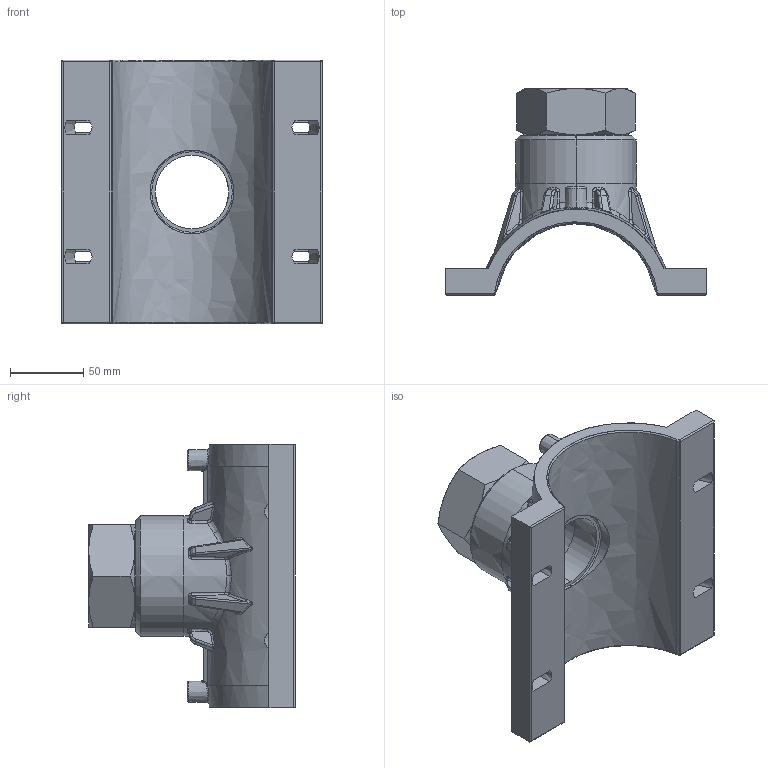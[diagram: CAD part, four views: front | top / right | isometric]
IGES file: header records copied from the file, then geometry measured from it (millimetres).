
Start section:  PTC IGES file: vam-rg_d110_2_01.igs
Global section: file name: vam-rg_d110_2_01.igs; native system: Pro/ENGINEER by Parametric Technology Corporation; preprocessor: 2011490; author: mtunjic; organization: Unknown; date: 20130909.105548; units: millimetre
Bounding box: 178 x 141.05 x 180 mm (x, y, z)
Surface area: 135070.6 mm2 (no closed solid volume)
Topology: 0 solids, 0 shells, 522 faces, 2576 edges, 2576 vertices
Faces by surface type: bspline 522
